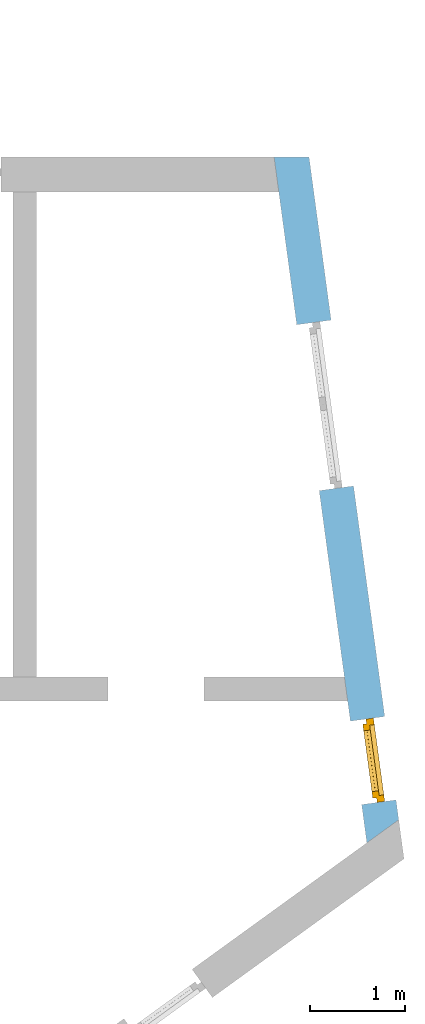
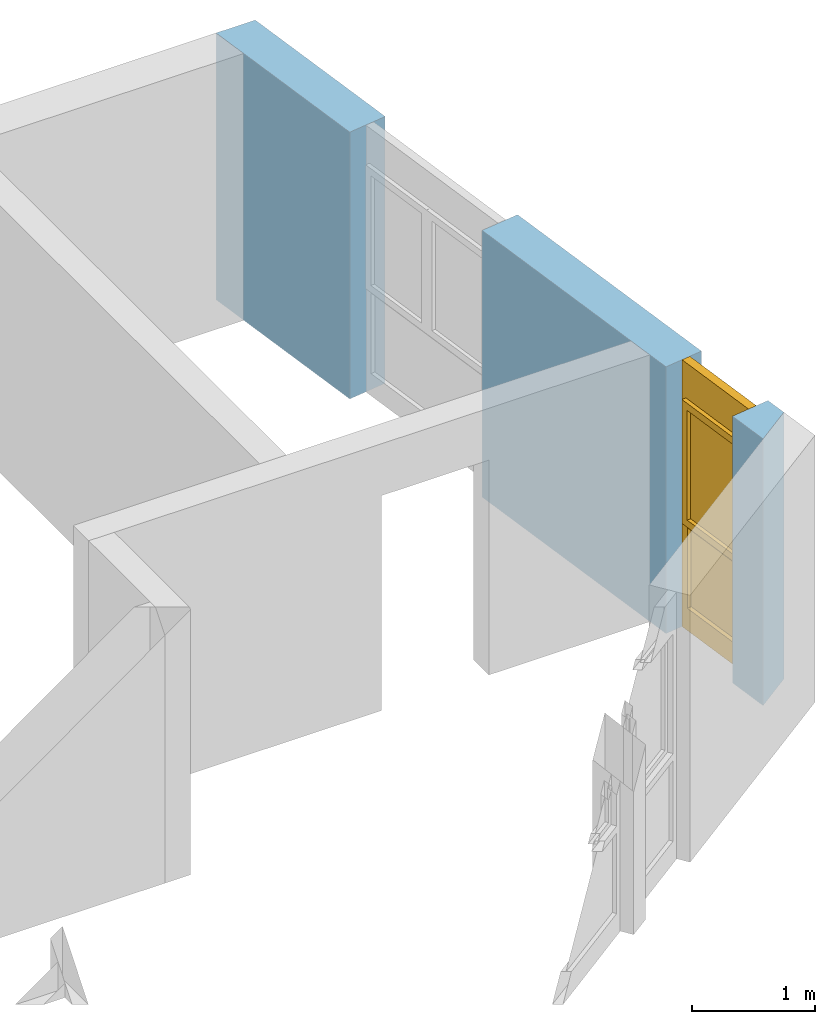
# One storey, part 41 of 42: 1 window, 2 openings, plus 1 element that does not belong to this part.
"""IFC2X3 building model written with IfcOpenShell, lengths in millimetres."""

import ifcopenshell
import ifcopenshell.guid

model = None  # the IFC model being written
_history = None  # IfcOwnerHistory: only IFC2X3 demands one
_inside = {}  # id of a spatial element -> (the spatial element, [elements in it])
_under = {}  # id of a project, library or spatial element -> (it, [spatial elements below it])
_declared = {}  # id of a project -> (the project, [libraries it declares])
_typed = {}  # id of a type object -> (the type object, [elements of that type])
_made_of = {}  # id of a material, layer set ... -> (it, [elements and type objects made of it])


def new_model(schema):
    """Start an empty IFC model of exactly this schema.

    Asked for "IFC4X3", IfcOpenShell would pick the latest addendum, in which some entities
    have other attributes; the version numbers below select the first issue.
    IFC2X3 requires an IfcOwnerHistory on every rooted entity: one is made here for all.
    """
    global model, _history
    if schema == "IFC4X3":
        model = ifcopenshell.file(schema_version=(4, 3, 0, 0))
    else:
        model = ifcopenshell.file(schema=schema)
    _inside.clear()
    _under.clear()
    _declared.clear()
    _typed.clear()
    _made_of.clear()
    _history = None
    if model.schema == "IFC2X3":
        org = make("IfcOrganization", Name="unknown")
        user = make(
            "IfcPersonAndOrganization",
            ThePerson=make("IfcPerson", FamilyName="unknown"),
            TheOrganization=org,
        )
        app = make(
            "IfcApplication",
            ApplicationDeveloper=org,
            Version="unknown",
            ApplicationFullName="unknown",
            ApplicationIdentifier="unknown",
        )
        _history = make(
            "IfcOwnerHistory",
            OwningUser=user,
            OwningApplication=app,
            ChangeAction="ADDED",
            CreationDate=0,
        )
    return model


def make(cls, **values):
    """One entity of the class cls with the attributes given. An attribute that is None is left unset."""
    return model.create_entity(
        cls, **{name: value for name, value in values.items() if value is not None}
    )


def entity(cls, *values):
    """Any entity or typed value of the class cls, its attributes in the order of the schema. None: left unset."""
    e = model.create_entity(cls)
    for i, value in enumerate(values):
        if value is not None:
            e[i] = value
    return e


def rooted(cls, **values):
    """An entity with a GlobalId (a new one), such as an element, a storey or a relation."""
    return make(cls, GlobalId=ifcopenshell.guid.new(), OwnerHistory=_history, **values)


def si_unit(unit_type, name, prefix=None):
    """IfcSIUnit, for example si_unit("LENGTHUNIT", "METRE", prefix="MILLI")."""
    return make("IfcSIUnit", UnitType=unit_type, Prefix=prefix, Name=name)


def converted_unit(unit_type, name, factor, base, dimensions=None, offset=None):
    """IfcConversionBasedUnit, such as the inch: factor (a typed value) times the base unit."""
    return make(
        "IfcConversionBasedUnit"
        if offset is None
        else "IfcConversionBasedUnitWithOffset",
        ConversionOffset=offset,
        Dimensions=None
        if dimensions is None
        else entity("IfcDimensionalExponents", *dimensions),
        UnitType=unit_type,
        Name=name,
        ConversionFactor=make(
            "IfcMeasureWithUnit", ValueComponent=factor, UnitComponent=base
        ),
    )


def assignment(units):
    """IfcUnitAssignment: the units of a project."""
    return None if units is None else make("IfcUnitAssignment", Units=units)


def point(xyz):
    """IfcCartesianPoint."""
    return None if xyz is None else make("IfcCartesianPoint", Coordinates=xyz)


def direction(xyz):
    """IfcDirection."""
    return None if xyz is None else make("IfcDirection", DirectionRatios=xyz)


def frame(location, z_axis=None, x_axis=None):
    """IfcAxis2Placement3D, a coordinate frame: its origin and axes. An axis left out is left unset."""
    return make(
        "IfcAxis2Placement3D",
        Location=point(location),
        Axis=direction(z_axis),
        RefDirection=direction(x_axis),
    )


def frame_2d(location, x_axis=None):
    """IfcAxis2Placement2D, a coordinate frame in the plane: its origin and x axis."""
    return make(
        "IfcAxis2Placement2D", Location=point(location), RefDirection=direction(x_axis)
    )


def origin():
    """The frame at (0, 0, 0) with its axes left unset."""
    return frame((0.0, 0.0, 0.0))


def origin_with_axes():
    """The frame at (0, 0, 0) with the z axis (0, 0, 1) and the x axis (1, 0, 0) written out."""
    return frame((0.0, 0.0, 0.0), z_axis=(0.0, 0.0, 1.0), x_axis=(1.0, 0.0, 0.0))


def place(relative_to, where):
    """IfcLocalPlacement: puts the frame where relative to a parent placement (None: the world)."""
    return make(
        "IfcLocalPlacement", PlacementRelTo=relative_to, RelativePlacement=where
    )


def context(
    kind, dimensions, precision=None, world=None, true_north=None, identifier=None
):
    """IfcGeometricRepresentationContext, for example the 3D "Model" context."""
    return make(
        "IfcGeometricRepresentationContext",
        ContextIdentifier=identifier,
        ContextType=kind,
        CoordinateSpaceDimension=dimensions,
        Precision=precision,
        WorldCoordinateSystem=world,
        TrueNorth=true_north,
    )


def subcontext(parent, identifier, kind, view, scale=None):
    """IfcGeometricRepresentationSubContext, for example "Body" below "Model"."""
    return make(
        "IfcGeometricRepresentationSubContext",
        ContextIdentifier=identifier,
        ContextType=kind,
        ParentContext=parent,
        TargetScale=scale,
        TargetView=view,
    )


def project(units=None, contexts=None):
    """IfcProject with its units and contexts."""
    return rooted(
        "IfcProject",
        Name="project",
        RepresentationContexts=contexts,
        UnitsInContext=assignment(units),
    )


def spatial(cls, under=None, at=None, **own):
    """A site, building, storey or space (cls), placed at a placement, below another one or the project."""
    s = rooted(cls, ObjectPlacement=at, **own)
    if under is not None:
        _under.setdefault(under.id(), (under, []))[1].append(s)
    return s


def polyline(points):
    """IfcPolyline through the points."""
    return make("IfcPolyline", Points=[point(p) for p in points])


def profile(cls, at=None, kind="AREA", **sizes):
    """A parametric profile (cls). Its sizes go by their IFC names, for example OverallWidth=200.0."""
    return make(cls, ProfileType=kind, Position=at, **sizes)


def rectangle(**sizes):
    """IfcRectangleProfileDef."""
    return profile("IfcRectangleProfileDef", **sizes)


def outline(outer, holes=None, kind="AREA"):
    """IfcArbitraryClosedProfileDef: a profile drawn as a closed curve; with holes, ...WithVoids."""
    if holes is None:
        return make("IfcArbitraryClosedProfileDef", ProfileType=kind, OuterCurve=outer)
    return make(
        "IfcArbitraryProfileDefWithVoids",
        ProfileType=kind,
        OuterCurve=outer,
        InnerCurves=holes,
    )


def extrude(swept, where, along, depth):
    """IfcExtrudedAreaSolid: the profile swept, set in the frame where, extruded along a direction by depth."""
    return make(
        "IfcExtrudedAreaSolid",
        SweptArea=swept,
        Position=where,
        ExtrudedDirection=direction(along),
        Depth=depth,
    )


def faces_of(points, faces, orient=None, outer=None):
    """IfcFace entities. A face is a list of loops; a loop is a list of indices into points, from 0.

    orient and outer hold one flag for each loop. By default every Orientation is true, the
    first loop of a face is its IfcFaceOuterBound and the others are IfcFaceBound.
    """
    made = []
    for i, loops in enumerate(faces):
        bounds = []
        for j, loop in enumerate(loops):
            is_outer = j == 0 if outer is None else outer[i][j]
            bounds.append(
                make(
                    "IfcFaceOuterBound" if is_outer else "IfcFaceBound",
                    Bound=make("IfcPolyLoop", Polygon=[points[k] for k in loop]),
                    Orientation=True if orient is None else orient[i][j],
                )
            )
        made.append(make("IfcFace", Bounds=bounds))
    return made


def faceted_brep(points, faces, orient=None, outer=None, voids=None):
    """IfcFacetedBrep: a solid bounded by flat faces; with voids (closed shells), ...WithVoids."""
    shared = [point(p) for p in points]
    hull = make("IfcClosedShell", CfsFaces=faces_of(shared, faces, orient, outer))
    if voids is None:
        return make("IfcFacetedBrep", Outer=hull)
    return make(
        "IfcFacetedBrepWithVoids",
        Outer=hull,
        Voids=[
            make(cls, CfsFaces=faces_of(shared, fs, o, b)) for cls, fs, o, b in voids
        ],
    )


def shape(context_of_items, identifier, shape_type, items):
    """IfcShapeRepresentation: the items that make up one representation, for example the "Body"."""
    return make(
        "IfcShapeRepresentation",
        ContextOfItems=context_of_items,
        RepresentationIdentifier=identifier,
        RepresentationType=shape_type,
        Items=items,
    )


def material(Name=None, Category=None):
    """IfcMaterial."""
    return make("IfcMaterial", Name=Name, Category=Category)


def layer(
    of_material, thickness, ventilated=None, Name=None, Category=None, Priority=None
):
    """IfcMaterialLayer: one layer of a wall or slab, of a material (None: an air gap)."""
    return make(
        "IfcMaterialLayer",
        Material=of_material,
        LayerThickness=thickness,
        IsVentilated=ventilated,
        Name=Name,
        Category=Category,
        Priority=Priority,
    )


def layer_set(layers, Name=None):
    """IfcMaterialLayerSet."""
    return make("IfcMaterialLayerSet", MaterialLayers=layers, LayerSetName=Name)


def layer_usage(for_layer_set, set_direction, sense, offset, extent=None):
    """IfcMaterialLayerSetUsage: how a layer set lies in its element."""
    return make(
        "IfcMaterialLayerSetUsage",
        ForLayerSet=for_layer_set,
        LayerSetDirection=set_direction,
        DirectionSense=sense,
        OffsetFromReferenceLine=offset,
        ReferenceExtent=extent,
    )


def made_of(thing, what):
    """Note that an element or type object is made of a material, layer set ...; save() writes the relation."""
    if what is not None:
        _made_of.setdefault(what.id(), (what, []))[1].append(thing)
    return thing


def type_object(cls, material=None, **own):
    """A type object (cls), such as IfcWallType, which elements share."""
    return made_of(rooted(cls, **own), material)


def element(
    cls,
    number,
    at=None,
    inside=None,
    cuts=None,
    type_object=None,
    material=None,
    context=None,
    identifier="Body",
    shape_type=None,
    held_by="IfcProductDefinitionShape",
    body=None,
    shapes=None,
    **own,
):
    """One element of the class cls, such as IfcWall. Its Tag is "e" and its number.

    at: its placement. inside: the storey or other place that contains it. cuts: it is an
    opening in that element (IfcRelVoidsElement). A single representation is given by context,
    identifier, shape_type and body (its items); several are given by shapes. held_by: the class
    of the entity that holds the representations. save() writes the other relations.
    """
    e = rooted(cls, Tag="e%d" % number, ObjectPlacement=at, **own)
    if body is not None:
        shapes = [shape(context, identifier, shape_type, body)]
    if shapes is not None:
        e.Representation = make(held_by, Representations=shapes)
    if inside is not None:
        _inside.setdefault(inside.id(), (inside, []))[1].append(e)
    if cuts is not None:
        rooted(
            "IfcRelVoidsElement", RelatingBuildingElement=cuts, RelatedOpeningElement=e
        )
    if type_object is not None:
        _typed.setdefault(type_object.id(), (type_object, []))[1].append(e)
    return made_of(e, material)


def fill(opening, filler):
    """IfcRelFillsElement: the door or window that sits in an opening."""
    return rooted(
        "IfcRelFillsElement",
        RelatingOpeningElement=opening,
        RelatedBuildingElement=filler,
    )


def aggregate(whole, parts):
    """IfcRelAggregates: a whole, such as a stair, and the parts it consists of."""
    return rooted("IfcRelAggregates", RelatingObject=whole, RelatedObjects=parts)


def save(model, path):
    """Write the relations noted so far, then the file.

    IfcRelAggregates (storeys below a building ...), IfcRelContainedInSpatialStructure (elements
    in a storey), IfcRelDefinesByType, IfcRelAssociatesMaterial and IfcRelDeclares: one each for
    every whole, place, type object, material and project.
    """
    for whole, parts in _under.values():
        aggregate(whole, parts)
    for where, things in _inside.values():
        rooted(
            "IfcRelContainedInSpatialStructure",
            RelatedElements=things,
            RelatingStructure=where,
        )
    for kind, things in _typed.values():
        rooted("IfcRelDefinesByType", RelatedObjects=things, RelatingType=kind)
    for what, things in _made_of.values():
        rooted("IfcRelAssociatesMaterial", RelatedObjects=things, RelatingMaterial=what)
    for by, libraries in _declared.values():
        rooted("IfcRelDeclares", RelatingContext=by, RelatedDefinitions=libraries)
    model.write(path)


model = new_model("IFC2X3")

# Units and contexts
model_context = context("Model", 3, precision=1e-05, world=origin())
body_context = subcontext(model_context, "Body", "Model", "MODEL_VIEW")
ifc_project = project(units=[si_unit("LENGTHUNIT", "METRE", prefix="MILLI"), converted_unit("PLANEANGLEUNIT", "DEGREE", entity("IfcPlaneAngleMeasure", 0.0174532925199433), si_unit("PLANEANGLEUNIT", "RADIAN"), dimensions=[0, 0, 0, 0, 0, 0, 0]), si_unit("AREAUNIT", "SQUARE_METRE"), si_unit("VOLUMEUNIT", "CUBIC_METRE")], contexts=[model_context])

# Building, storey
building_placement = place(None, origin())
building = spatial("IfcBuilding", under=ifc_project, at=building_placement, Name="Gebäude", CompositionType="ELEMENT")
storey_placement = place(building_placement, frame((0.0, 0.0, 2730.0), z_axis=(0.0, 0.0, 1.0), x_axis=(1.0, 0.0, 0.0)))
storey = spatial("IfcBuildingStorey", under=building, at=storey_placement, Name="OG.- Grundriss", CompositionType="ELEMENT", Elevation=2730.0)

# Wall, openings, window
ifc_material_1 = material(Name="Poroton")
ifc_layer = layer(ifc_material_1, 365.0000000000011)
ifc_layer_set = layer_set([ifc_layer])
ifc_layer_usage = layer_usage(ifc_layer_set, "AXIS2", "POSITIVE", 0.0)
wall_placement = place(storey_placement, frame((185447.2761832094, 129305.31365621, 0.0), z_axis=(0.0, 0.0, 1.0), x_axis=(-0.1340451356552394, 0.9909752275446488, 0.0)))
wall = element("IfcWallStandardCase", 1, at=wall_placement, inside=storey, material=ifc_layer_usage, Name="<Unnamed Element>", context=body_context, shape_type="SweptSolid", body=[
    extrude(outline(polyline([(0.0, 0.0), (7033.045713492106, 1.13686837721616e-13), (7082.417759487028, 365.0000000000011), (-195.7205517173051, 364.9999999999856), (0.0, 0.0)])), origin_with_axes(), (0.0, 0.0, 1.0), 2650.0),
])
opening_1_placement = place(wall_placement, frame((3543.045713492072, 5.684341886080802e-12, 0.0), z_axis=(0.0, 1.0, 0.0), x_axis=(0.0, 0.0, 1.0)))
element("IfcOpeningElement", 2, at=opening_1_placement, cuts=wall, Name="Fensteröffnung", ObjectType="Opening", context=body_context, shape_type="SweptSolid", body=[
    extrude(rectangle(XDim=2650.0, YDim=1760.0, at=frame_2d((1325.0, 880.0), x_axis=(1.0, 0.0))), origin_with_axes(), (0.0, 0.0, 1.0), 365.0),
])
opening_2_placement = place(wall_placement, frame((210.8363435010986, 8.885336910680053e-12, 0.0), z_axis=(0.0, 1.0, 0.0), x_axis=(0.0, 0.0, 1.0)))
opening_2 = element("IfcOpeningElement", 3, at=opening_2_placement, cuts=wall, Name="Fensteröffnung", ObjectType="Opening", context=body_context, shape_type="SweptSolid", body=[
    extrude(rectangle(XDim=2650.0, YDim=885.0000000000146, at=frame_2d((1325.0, 442.5000000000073), x_axis=(1.0, 0.0))), origin_with_axes(), (0.0, 0.0, 1.0), 365.0),
])
ifc_material_2 = material()
window_style = type_object("IfcWindowStyle", Name="Fenster", ConstructionType="NOTDEFINED", OperationType="USERDEFINED", ParameterTakesPrecedence=False, Sizeable=False)
window_placement = place(opening_2_placement, frame((0.0, 0.0, 0.0), z_axis=(1.0, 0.0, 0.0), x_axis=(0.0, 1.0, 0.0)))
window = element("IfcWindow", 4, at=window_placement, inside=storey, type_object=window_style, material=ifc_material_2, Name="Fenster", OverallHeight=2650.0, OverallWidth=885.0, context=body_context, shape_type="Brep", body=[
    faceted_brep([(5.129230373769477e-13, 200.0000000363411, 2650.0), (5.129230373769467e-13, 200.000000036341, -2.449293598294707e-15), (69.99999999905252, 200.0000000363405, -2.449293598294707e-15), (69.99999999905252, 200.0000000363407, 2650.0), (0.0, 120.0000000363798, 2.449293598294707e-15), (1.002247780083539e-27, 120.0000000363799, 2650.0), (69.99999999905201, 120.0000000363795, 2650.0), (69.99999999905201, 120.0000000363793, 2.449293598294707e-15), (5.129230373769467e-13, 200.000000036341, -2.449293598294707e-15), (5.129230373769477e-13, 200.0000000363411, 2650.0), (1.002247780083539e-27, 120.0000000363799, 2650.0), (0.0, 120.0000000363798, 2.449293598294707e-15), (69.99999999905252, 200.0000000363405, -2.449293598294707e-15), (5.129230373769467e-13, 200.000000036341, -2.449293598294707e-15), (0.0, 120.0000000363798, 2.449293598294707e-15), (69.99999999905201, 120.0000000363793, 2.449293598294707e-15), (69.99999999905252, 200.0000000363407, 2650.0), (69.99999999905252, 200.0000000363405, -2.449293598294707e-15), (69.99999999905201, 120.0000000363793, 2.449293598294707e-15), (69.99999999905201, 120.0000000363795, 2650.0), (5.129230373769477e-13, 200.0000000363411, 2650.0), (69.99999999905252, 200.0000000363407, 2650.0), (69.99999999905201, 120.0000000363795, 2650.0), (1.002247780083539e-27, 120.0000000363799, 2650.0)], [[[0, 1, 2, 3]], [[4, 5, 6, 7]], [[8, 9, 10, 11]], [[12, 13, 14, 15]], [[16, 17, 18, 19]], [[20, 21, 22, 23]]], orient=[[False], [False], [False], [False], [False], [False]]),
    faceted_brep([(815.0000000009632, 200.0000000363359, 2650.0), (815.0000000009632, 200.0000000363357, -2.449293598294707e-15), (885.0000000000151, 200.0000000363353, -2.449293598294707e-15), (885.0000000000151, 200.0000000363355, 2650.0), (815.0000000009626, 120.0000000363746, 2.449293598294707e-15), (815.0000000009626, 120.0000000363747, 2650.0), (885.0000000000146, 120.0000000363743, 2650.0), (885.0000000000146, 120.0000000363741, 2.449293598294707e-15), (815.0000000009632, 200.0000000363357, -2.449293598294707e-15), (815.0000000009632, 200.0000000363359, 2650.0), (815.0000000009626, 120.0000000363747, 2650.0), (815.0000000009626, 120.0000000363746, 2.449293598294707e-15), (885.0000000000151, 200.0000000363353, -2.449293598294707e-15), (815.0000000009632, 200.0000000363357, -2.449293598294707e-15), (815.0000000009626, 120.0000000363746, 2.449293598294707e-15), (885.0000000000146, 120.0000000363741, 2.449293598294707e-15), (885.0000000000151, 200.0000000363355, 2650.0), (885.0000000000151, 200.0000000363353, -2.449293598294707e-15), (885.0000000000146, 120.0000000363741, 2.449293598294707e-15), (885.0000000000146, 120.0000000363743, 2650.0), (815.0000000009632, 200.0000000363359, 2650.0), (885.0000000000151, 200.0000000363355, 2650.0), (885.0000000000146, 120.0000000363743, 2650.0), (815.0000000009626, 120.0000000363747, 2650.0)], [[[0, 1, 2, 3]], [[4, 5, 6, 7]], [[8, 9, 10, 11]], [[12, 13, 14, 15]], [[16, 17, 18, 19]], [[20, 21, 22, 23]]], orient=[[False], [False], [False], [False], [False], [False]]),
    faceted_brep([(69.99999999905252, 200.0000000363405, 220.0), (69.99999999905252, 200.0000000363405, -2.449293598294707e-15), (815.0000000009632, 200.0000000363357, -2.449293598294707e-15), (815.0000000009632, 200.0000000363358, 220.0), (69.99999999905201, 120.0000000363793, 2.449293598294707e-15), (69.99999999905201, 120.0000000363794, 220.0), (815.0000000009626, 120.0000000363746, 220.0), (815.0000000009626, 120.0000000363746, 2.449293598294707e-15), (69.99999999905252, 200.0000000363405, -2.449293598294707e-15), (69.99999999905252, 200.0000000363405, 220.0), (69.99999999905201, 120.0000000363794, 220.0), (69.99999999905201, 120.0000000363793, 2.449293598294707e-15), (815.0000000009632, 200.0000000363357, -2.449293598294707e-15), (69.99999999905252, 200.0000000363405, -2.449293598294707e-15), (69.99999999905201, 120.0000000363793, 2.449293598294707e-15), (815.0000000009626, 120.0000000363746, 2.449293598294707e-15), (815.0000000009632, 200.0000000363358, 220.0), (815.0000000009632, 200.0000000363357, -2.449293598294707e-15), (815.0000000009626, 120.0000000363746, 2.449293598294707e-15), (815.0000000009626, 120.0000000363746, 220.0), (69.99999999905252, 200.0000000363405, 220.0), (815.0000000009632, 200.0000000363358, 220.0), (815.0000000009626, 120.0000000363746, 220.0), (69.99999999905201, 120.0000000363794, 220.0)], [[[0, 1, 2, 3]], [[4, 5, 6, 7]], [[8, 9, 10, 11]], [[12, 13, 14, 15]], [[16, 17, 18, 19]], [[20, 21, 22, 23]]], orient=[[False], [False], [False], [False], [False], [False]]),
    faceted_brep([(69.99999999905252, 200.0000000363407, 2650.0), (69.99999999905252, 200.0000000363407, 2280.0), (815.0000000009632, 200.0000000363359, 2280.0), (815.0000000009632, 200.0000000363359, 2650.0), (69.99999999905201, 120.0000000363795, 2280.0), (69.99999999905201, 120.0000000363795, 2650.0), (815.0000000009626, 120.0000000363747, 2650.0), (815.0000000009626, 120.0000000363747, 2280.0), (69.99999999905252, 200.0000000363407, 2280.0), (69.99999999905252, 200.0000000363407, 2650.0), (69.99999999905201, 120.0000000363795, 2650.0), (69.99999999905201, 120.0000000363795, 2280.0), (815.0000000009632, 200.0000000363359, 2280.0), (69.99999999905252, 200.0000000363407, 2280.0), (69.99999999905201, 120.0000000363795, 2280.0), (815.0000000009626, 120.0000000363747, 2280.0), (815.0000000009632, 200.0000000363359, 2650.0), (815.0000000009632, 200.0000000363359, 2280.0), (815.0000000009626, 120.0000000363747, 2280.0), (815.0000000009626, 120.0000000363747, 2650.0), (69.99999999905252, 200.0000000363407, 2650.0), (815.0000000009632, 200.0000000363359, 2650.0), (815.0000000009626, 120.0000000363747, 2650.0), (69.99999999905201, 120.0000000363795, 2650.0)], [[[0, 1, 2, 3]], [[4, 5, 6, 7]], [[8, 9, 10, 11]], [[12, 13, 14, 15]], [[16, 17, 18, 19]], [[20, 21, 22, 23]]], orient=[[False], [False], [False], [False], [False], [False]]),
    faceted_brep([(69.99999999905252, 200.0000000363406, 1090.0), (69.99999999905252, 200.0000000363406, 1020.0), (815.0000000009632, 200.0000000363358, 1020.0), (815.0000000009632, 200.0000000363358, 1090.0), (69.99999999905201, 120.0000000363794, 1020.0), (69.99999999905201, 120.0000000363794, 1090.0), (815.0000000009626, 120.0000000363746, 1090.0), (815.0000000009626, 120.0000000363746, 1020.0), (69.99999999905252, 200.0000000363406, 1020.0), (69.99999999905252, 200.0000000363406, 1090.0), (69.99999999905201, 120.0000000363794, 1090.0), (69.99999999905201, 120.0000000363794, 1020.0), (815.0000000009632, 200.0000000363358, 1020.0), (69.99999999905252, 200.0000000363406, 1020.0), (69.99999999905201, 120.0000000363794, 1020.0), (815.0000000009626, 120.0000000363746, 1020.0), (815.0000000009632, 200.0000000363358, 1090.0), (815.0000000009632, 200.0000000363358, 1020.0), (815.0000000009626, 120.0000000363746, 1020.0), (815.0000000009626, 120.0000000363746, 1090.0), (69.99999999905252, 200.0000000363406, 1090.0), (815.0000000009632, 200.0000000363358, 1090.0), (815.0000000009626, 120.0000000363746, 1090.0), (69.99999999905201, 120.0000000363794, 1090.0)], [[[0, 1, 2, 3]], [[4, 5, 6, 7]], [[8, 9, 10, 11]], [[12, 13, 14, 15]], [[16, 17, 18, 19]], [[20, 21, 22, 23]]], orient=[[False], [False], [False], [False], [False], [False]]),
    faceted_brep([(69.99999999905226, 160.00000003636, 220.0), (815.0000000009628, 160.0000000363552, 220.0), (815.0000000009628, 160.0000000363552, 1020.0), (69.99999999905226, 160.00000003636, 1020.0), (69.99999999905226, 159.00000003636, 220.0), (69.99999999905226, 159.00000003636, 1020.0), (815.0000000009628, 159.0000000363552, 1020.0), (815.0000000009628, 159.0000000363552, 220.0), (69.99999999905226, 160.00000003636, 220.0), (69.99999999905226, 159.00000003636, 220.0), (815.0000000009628, 159.0000000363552, 220.0), (815.0000000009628, 160.0000000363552, 220.0), (815.0000000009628, 160.0000000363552, 220.0), (815.0000000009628, 159.0000000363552, 220.0), (815.0000000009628, 159.0000000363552, 1020.0), (815.0000000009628, 160.0000000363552, 1020.0), (815.0000000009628, 160.0000000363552, 1020.0), (815.0000000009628, 159.0000000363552, 1020.0), (69.99999999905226, 159.00000003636, 1020.0), (69.99999999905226, 160.00000003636, 1020.0), (69.99999999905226, 160.00000003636, 1020.0), (69.99999999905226, 159.00000003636, 1020.0), (69.99999999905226, 159.00000003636, 220.0), (69.99999999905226, 160.00000003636, 220.0)], [[[0, 1, 2, 3]], [[4, 5, 6, 7]], [[8, 9, 10, 11]], [[12, 13, 14, 15]], [[16, 17, 18, 19]], [[20, 21, 22, 23]]], orient=[[False], [False], [False], [False], [False], [False]]),
    faceted_brep([(49.99999999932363, 240.0000000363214, 2300.0), (49.99999999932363, 240.0000000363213, 1070.0), (119.9999999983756, 240.0000000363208, 1070.0), (119.9999999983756, 240.0000000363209, 2300.0), (49.99999999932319, 170.0000000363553, 1070.0), (49.99999999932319, 170.0000000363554, 2300.0), (119.9999999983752, 170.0000000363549, 2300.0), (119.9999999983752, 170.0000000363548, 1070.0), (49.99999999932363, 240.0000000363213, 1070.0), (49.99999999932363, 240.0000000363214, 2300.0), (49.99999999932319, 170.0000000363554, 2300.0), (49.99999999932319, 170.0000000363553, 1070.0), (119.9999999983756, 240.0000000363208, 1070.0), (49.99999999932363, 240.0000000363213, 1070.0), (49.99999999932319, 170.0000000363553, 1070.0), (119.9999999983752, 170.0000000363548, 1070.0), (119.9999999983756, 240.0000000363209, 2300.0), (119.9999999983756, 240.0000000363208, 1070.0), (119.9999999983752, 170.0000000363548, 1070.0), (119.9999999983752, 170.0000000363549, 2300.0), (49.99999999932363, 240.0000000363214, 2300.0), (119.9999999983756, 240.0000000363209, 2300.0), (119.9999999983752, 170.0000000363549, 2300.0), (49.99999999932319, 170.0000000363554, 2300.0)], [[[0, 1, 2, 3]], [[4, 5, 6, 7]], [[8, 9, 10, 11]], [[12, 13, 14, 15]], [[16, 17, 18, 19]], [[20, 21, 22, 23]]], orient=[[False], [False], [False], [False], [False], [False]]),
    faceted_brep([(765.0000000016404, 240.0000000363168, 2300.0), (765.0000000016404, 240.0000000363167, 1070.0), (835.0000000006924, 240.0000000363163, 1070.0), (835.0000000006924, 240.0000000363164, 2300.0), (765.0000000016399, 170.0000000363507, 1070.0), (765.0000000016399, 170.0000000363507, 2300.0), (835.0000000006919, 170.0000000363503, 2300.0), (835.0000000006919, 170.0000000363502, 1070.0), (765.0000000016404, 240.0000000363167, 1070.0), (765.0000000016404, 240.0000000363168, 2300.0), (765.0000000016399, 170.0000000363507, 2300.0), (765.0000000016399, 170.0000000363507, 1070.0), (835.0000000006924, 240.0000000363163, 1070.0), (765.0000000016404, 240.0000000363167, 1070.0), (765.0000000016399, 170.0000000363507, 1070.0), (835.0000000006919, 170.0000000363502, 1070.0), (835.0000000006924, 240.0000000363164, 2300.0), (835.0000000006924, 240.0000000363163, 1070.0), (835.0000000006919, 170.0000000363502, 1070.0), (835.0000000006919, 170.0000000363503, 2300.0), (765.0000000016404, 240.0000000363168, 2300.0), (835.0000000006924, 240.0000000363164, 2300.0), (835.0000000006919, 170.0000000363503, 2300.0), (765.0000000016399, 170.0000000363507, 2300.0)], [[[0, 1, 2, 3]], [[4, 5, 6, 7]], [[8, 9, 10, 11]], [[12, 13, 14, 15]], [[16, 17, 18, 19]], [[20, 21, 22, 23]]], orient=[[False], [False], [False], [False], [False], [False]]),
    faceted_brep([(119.9999999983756, 240.0000000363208, 1140.0), (119.9999999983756, 240.0000000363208, 1070.0), (765.0000000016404, 240.0000000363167, 1070.0), (765.0000000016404, 240.0000000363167, 1140.0), (119.9999999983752, 170.0000000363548, 1070.0), (119.9999999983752, 170.0000000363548, 1140.0), (765.0000000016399, 170.0000000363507, 1140.0), (765.0000000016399, 170.0000000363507, 1070.0), (119.9999999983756, 240.0000000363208, 1070.0), (119.9999999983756, 240.0000000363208, 1140.0), (119.9999999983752, 170.0000000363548, 1140.0), (119.9999999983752, 170.0000000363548, 1070.0), (765.0000000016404, 240.0000000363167, 1070.0), (119.9999999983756, 240.0000000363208, 1070.0), (119.9999999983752, 170.0000000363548, 1070.0), (765.0000000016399, 170.0000000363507, 1070.0), (765.0000000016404, 240.0000000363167, 1140.0), (765.0000000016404, 240.0000000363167, 1070.0), (765.0000000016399, 170.0000000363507, 1070.0), (765.0000000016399, 170.0000000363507, 1140.0), (119.9999999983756, 240.0000000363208, 1140.0), (765.0000000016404, 240.0000000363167, 1140.0), (765.0000000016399, 170.0000000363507, 1140.0), (119.9999999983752, 170.0000000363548, 1140.0)], [[[0, 1, 2, 3]], [[4, 5, 6, 7]], [[8, 9, 10, 11]], [[12, 13, 14, 15]], [[16, 17, 18, 19]], [[20, 21, 22, 23]]], orient=[[False], [False], [False], [False], [False], [False]]),
    faceted_brep([(119.9999999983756, 240.0000000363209, 2300.0), (119.9999999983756, 240.0000000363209, 2230.0), (765.0000000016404, 240.0000000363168, 2230.0), (765.0000000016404, 240.0000000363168, 2300.0), (119.9999999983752, 170.0000000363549, 2230.0), (119.9999999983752, 170.0000000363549, 2300.0), (765.0000000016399, 170.0000000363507, 2300.0), (765.0000000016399, 170.0000000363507, 2230.0), (119.9999999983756, 240.0000000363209, 2230.0), (119.9999999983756, 240.0000000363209, 2300.0), (119.9999999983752, 170.0000000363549, 2300.0), (119.9999999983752, 170.0000000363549, 2230.0), (765.0000000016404, 240.0000000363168, 2230.0), (119.9999999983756, 240.0000000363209, 2230.0), (119.9999999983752, 170.0000000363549, 2230.0), (765.0000000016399, 170.0000000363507, 2230.0), (765.0000000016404, 240.0000000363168, 2300.0), (765.0000000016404, 240.0000000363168, 2230.0), (765.0000000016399, 170.0000000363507, 2230.0), (765.0000000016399, 170.0000000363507, 2300.0), (119.9999999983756, 240.0000000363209, 2300.0), (765.0000000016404, 240.0000000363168, 2300.0), (765.0000000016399, 170.0000000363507, 2300.0), (119.9999999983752, 170.0000000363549, 2300.0)], [[[0, 1, 2, 3]], [[4, 5, 6, 7]], [[8, 9, 10, 11]], [[12, 13, 14, 15]], [[16, 17, 18, 19]], [[20, 21, 22, 23]]], orient=[[False], [False], [False], [False], [False], [False]]),
    faceted_brep([(119.9999999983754, 205.0000000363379, 1140.0), (765.0000000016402, 205.0000000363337, 1140.0), (765.0000000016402, 205.0000000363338, 2230.0), (119.9999999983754, 205.000000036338, 2230.0), (119.9999999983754, 204.0000000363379, 1140.0), (119.9999999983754, 204.000000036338, 2230.0), (765.0000000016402, 204.0000000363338, 2230.0), (765.0000000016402, 204.0000000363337, 1140.0), (119.9999999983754, 205.0000000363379, 1140.0), (119.9999999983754, 204.0000000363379, 1140.0), (765.0000000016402, 204.0000000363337, 1140.0), (765.0000000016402, 205.0000000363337, 1140.0), (765.0000000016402, 205.0000000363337, 1140.0), (765.0000000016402, 204.0000000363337, 1140.0), (765.0000000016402, 204.0000000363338, 2230.0), (765.0000000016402, 205.0000000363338, 2230.0), (765.0000000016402, 205.0000000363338, 2230.0), (765.0000000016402, 204.0000000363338, 2230.0), (119.9999999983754, 204.000000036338, 2230.0), (119.9999999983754, 205.000000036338, 2230.0), (119.9999999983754, 205.000000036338, 2230.0), (119.9999999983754, 204.000000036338, 2230.0), (119.9999999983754, 204.0000000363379, 1140.0), (119.9999999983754, 205.0000000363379, 1140.0)], [[[0, 1, 2, 3]], [[4, 5, 6, 7]], [[8, 9, 10, 11]], [[12, 13, 14, 15]], [[16, 17, 18, 19]], [[20, 21, 22, 23]]], orient=[[False], [False], [False], [False], [False], [False]]),
])
fill(opening_2, window)

save(model, "model.ifc")
